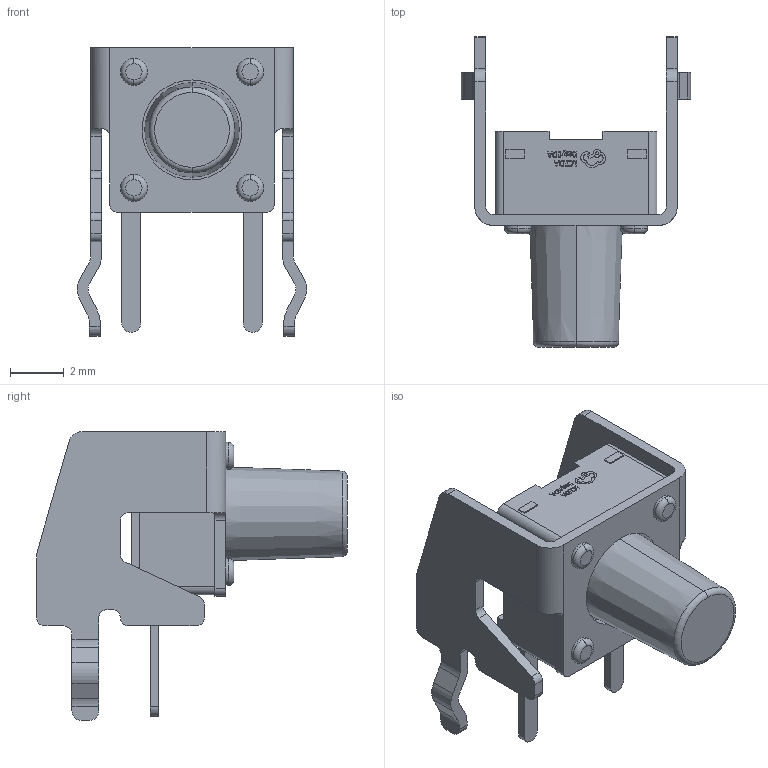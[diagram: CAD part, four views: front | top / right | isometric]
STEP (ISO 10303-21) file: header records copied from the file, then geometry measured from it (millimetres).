
FILE_DESCRIPTION (( 'STEP AP214' ), '1' );
FILE_NAME ('SW-TH_TS-1093C-A9B3-D1.step', '2022-10-26T10:52:54', ( '' ), ( '' ), 'SwSTEP 2.0', 'SolidWorks 2021', '' );
FILE_SCHEMA (( 'AUTOMOTIVE_DESIGN' ));
Length unit declared in the file: millimetre
Products named in the file (1): SW-TH_TS-1093C-A9B3-D1
Bounding box: 8.5 x 11.5 x 10.7 mm (x, y, z)
Volume: 192 mm3; surface area: 423.6 mm2
Topology: 1 solids, 1 shells, 402 faces, 1085 edges, 718 vertices
Faces by surface type: plane 228, bspline 98, cylinder 64, torus 10, cone 2
Entity records: 17555 total; most frequent: CARTESIAN_POINT 3540, ORIENTED_EDGE 2170, DIRECTION 1637, EDGE_CURVE 1085, LINE 735, VECTOR 735, VERTEX_POINT 718, AXIS2_PLACEMENT_3D 451
